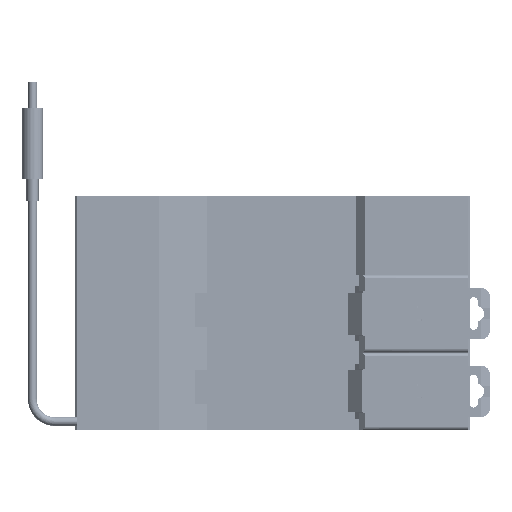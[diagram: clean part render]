
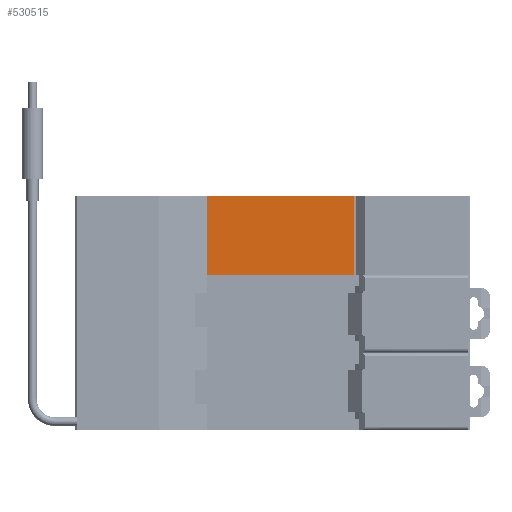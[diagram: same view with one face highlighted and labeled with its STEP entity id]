
A CAD part, front view. The second image highlights one B-rep face of the part: STEP entity #530515.
In plain terms, the highlighted planar face has unit normal (0, -1, 0).
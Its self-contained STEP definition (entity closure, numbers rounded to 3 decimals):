
#55788 = CARTESIAN_POINT ( 'NONE',  ( -33.633, -29.727, 92.125 ) ) ;
#67992 = VERTEX_POINT ( 'NONE', #509809 ) ;
#119169 = CARTESIAN_POINT ( 'NONE',  ( -33.633, -29.727, 92.125 ) ) ;
#142509 = VECTOR ( 'NONE', #502249, 1000. ) ;
#155543 = DIRECTION ( 'NONE',  ( 0., 0., 1. ) ) ;
#171078 = LINE ( 'NONE', #556137, #142509 ) ;
#183778 = CARTESIAN_POINT ( 'NONE',  ( 2.417, -29.727, 118.925 ) ) ;
#216037 = ORIENTED_EDGE ( 'NONE', *, *, #462303, .T. ) ;
#242807 = DIRECTION ( 'NONE',  ( 0., 1., 0. ) ) ;
#248112 = DIRECTION ( 'NONE',  ( 1., 0., 0. ) ) ;
#254087 = VERTEX_POINT ( 'NONE', #560137 ) ;
#260595 = CARTESIAN_POINT ( 'NONE',  ( -38.434, -29.727, 118.925 ) ) ;
#294056 = ORIENTED_EDGE ( 'NONE', *, *, #303871, .T. ) ;
#295075 = DIRECTION ( 'NONE',  ( 0., 0., -1. ) ) ;
#303811 = AXIS2_PLACEMENT_3D ( 'NONE', #119169, #242807, #248112 ) ;
#303871 = EDGE_CURVE ( 'NONE', #254087, #791686, #744855, .T. ) ;
#404544 = ORIENTED_EDGE ( 'NONE', *, *, #521000, .F. ) ;
#416457 = LINE ( 'NONE', #260595, #762703 ) ;
#436970 = VECTOR ( 'NONE', #295075, 1000. ) ;
#461178 = LINE ( 'NONE', #579986, #605466 ) ;
#462303 = EDGE_CURVE ( 'NONE', #791686, #67992, #171078, .T. ) ;
#502249 = DIRECTION ( 'NONE',  ( 1., 0., 0. ) ) ;
#509809 = CARTESIAN_POINT ( 'NONE',  ( 2.417, -29.727, 100.925 ) ) ;
#521000 = EDGE_CURVE ( 'NONE', #254087, #653876, #416457, .T. ) ;
#530515 = ADVANCED_FACE ( 'NONE', ( #602551 ), #615988, .F. ) ;
#556137 = CARTESIAN_POINT ( 'NONE',  ( -33.633, -29.727, 100.925 ) ) ;
#560137 = CARTESIAN_POINT ( 'NONE',  ( -33.633, -29.727, 118.925 ) ) ;
#579986 = CARTESIAN_POINT ( 'NONE',  ( 2.417, -29.727, 92.125 ) ) ;
#588755 = EDGE_CURVE ( 'NONE', #67992, #653876, #461178, .T. ) ;
#602551 = FACE_OUTER_BOUND ( 'NONE', #705072, .T. ) ;
#605466 = VECTOR ( 'NONE', #155543, 1000. ) ;
#615988 = PLANE ( 'NONE',  #303811 ) ;
#643520 = ORIENTED_EDGE ( 'NONE', *, *, #588755, .T. ) ;
#653876 = VERTEX_POINT ( 'NONE', #183778 ) ;
#690500 = DIRECTION ( 'NONE',  ( 1., 0., 0. ) ) ;
#705072 = EDGE_LOOP ( 'NONE', ( #643520, #404544, #294056, #216037 ) ) ;
#744855 = LINE ( 'NONE', #55788, #436970 ) ;
#762703 = VECTOR ( 'NONE', #690500, 1000. ) ;
#770539 = CARTESIAN_POINT ( 'NONE',  ( -33.633, -29.727, 100.925 ) ) ;
#791686 = VERTEX_POINT ( 'NONE', #770539 ) ;
